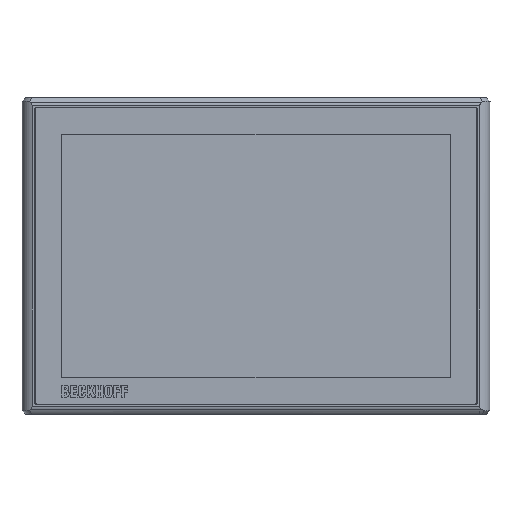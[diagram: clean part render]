
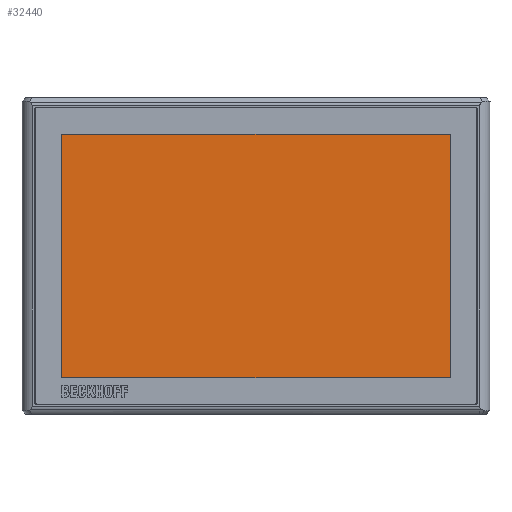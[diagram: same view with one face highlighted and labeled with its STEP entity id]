
A CAD part, top view. The second image highlights one B-rep face of the part: STEP entity #32440.
In plain terms, the highlighted planar face has unit normal (0, 0, 1).
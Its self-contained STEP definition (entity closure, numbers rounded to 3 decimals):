
#1740=PLANE('',#34273);
#2737=FACE_OUTER_BOUND('',#4541,.T.);
#4541=EDGE_LOOP('',(#21341,#21342,#21343,#21344));
#7634=LINE('',#45710,#10448);
#7635=LINE('',#45712,#10449);
#7636=LINE('',#45714,#10450);
#7637=LINE('',#45715,#10451);
#10448=VECTOR('',#36968,10.);
#10449=VECTOR('',#36969,10.);
#10450=VECTOR('',#36970,10.);
#10451=VECTOR('',#36971,10.);
#13217=VERTEX_POINT('',#45708);
#13218=VERTEX_POINT('',#45709);
#13219=VERTEX_POINT('',#45711);
#13220=VERTEX_POINT('',#45713);
#16443=EDGE_CURVE('',#13217,#13218,#7634,.T.);
#16444=EDGE_CURVE('',#13218,#13219,#7635,.T.);
#16445=EDGE_CURVE('',#13219,#13220,#7636,.T.);
#16446=EDGE_CURVE('',#13220,#13217,#7637,.T.);
#21341=ORIENTED_EDGE('',*,*,#16443,.T.);
#21342=ORIENTED_EDGE('',*,*,#16444,.T.);
#21343=ORIENTED_EDGE('',*,*,#16445,.T.);
#21344=ORIENTED_EDGE('',*,*,#16446,.T.);
#32440=ADVANCED_FACE('',(#2737),#1740,.T.);
#34273=AXIS2_PLACEMENT_3D('',#45707,#36966,#36967);
#36966=DIRECTION('center_axis',(0.,0.,
1.));
#36967=DIRECTION('ref_axis',(1.,0.,0.));
#36968=DIRECTION('',(0.,1.,0.));
#36969=DIRECTION('',(-1.,0.,0.));
#36970=DIRECTION('',(0.,-1.,0.));
#36971=DIRECTION('',(1.,0.,0.));
#45707=CARTESIAN_POINT('Origin',(84.526,54.44,-94.062));
#45708=CARTESIAN_POINT('',(215.926,-27.96,-94.062));
#45709=CARTESIAN_POINT('',(215.926,136.84,-94.062));
#45710=CARTESIAN_POINT('',(215.926,95.64,-94.062));
#45711=CARTESIAN_POINT('',(-46.874,136.84,-94.062));
#45712=CARTESIAN_POINT('',(18.826,136.84,-94.062));
#45713=CARTESIAN_POINT('',(-46.874,-27.96,-94.062));
#45714=CARTESIAN_POINT('',(-46.874,13.24,-94.062));
#45715=CARTESIAN_POINT('',(150.226,-27.96,-94.062));
